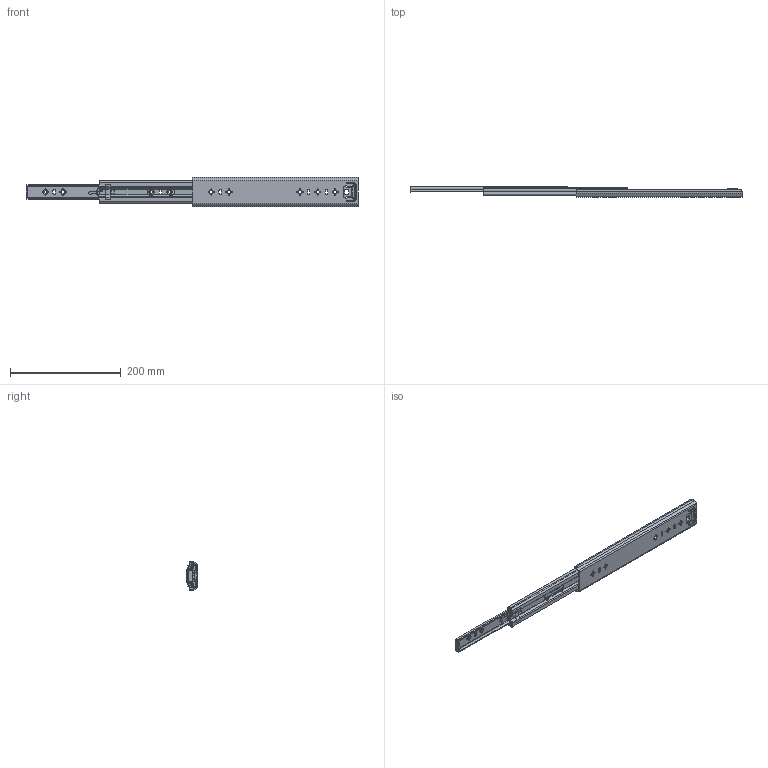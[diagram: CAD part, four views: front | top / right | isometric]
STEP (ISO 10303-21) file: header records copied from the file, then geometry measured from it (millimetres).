
FILE_DESCRIPTION((''),'2;1');
FILE_NAME('1053-02-12_ASM','2018-03-22T',('jishu015'),(''),'PRO/ENGINEER BY PARAMETRIC TECHNOLOGY CORPORATION, 2010280','PRO/ENGINEER BY PARAMETRIC TECHNOLOGY CORPORATION, 2010280','');
FILE_SCHEMA(('CONFIG_CONTROL_DESIGN'));
Length unit declared in the file: millimetre
Products named in the file (15): 1053-02-18WAIKE_; 1053WEIJIAO_; 1053-02-18WAIKE___ASM; 1053ZHUTIAO-175; 53-5-6GANZHU; 1053ZHUTIAO-175MM___ASM; 1053-02-18ZHONGGUI___; 53ZHIDIJIAO_________________; 1053-02-18ZHONGGUI____ASM; 1053XIAOZHUJIA-14GE_____; 1053XIAOZHUJIA-12GE_____ASM; 1053-02-18NEIGUI____; 53BACHA________________; 1053-02-18NEIGUI___ASM; 1053-02-12_ASM
Assembly tree (37 placements, depth 3):
  1053-02-12_ASM
    1053-02-18WAIKE___ASM
      1053-02-18WAIKE_
      1053WEIJIAO_
    1053ZHUTIAO-175MM___ASM  x2
      1053ZHUTIAO-175
      53-5-6GANZHU
    1053-02-18ZHONGGUI____ASM
      1053-02-18ZHONGGUI___
      53ZHIDIJIAO_________________
    1053XIAOZHUJIA-12GE_____ASM
      1053XIAOZHUJIA-14GE_____
      53-5-6GANZHU  x20
    1053-02-18NEIGUI___ASM
      1053-02-18NEIGUI____
      53BACHA________________
Bounding box: 600 x 18.7 x 53 mm (x, y, z)
Volume: 110949.1 mm3; surface area: 127054.1 mm2
Topology: 35 solids, 35 shells, 1129 faces, 3241 edges, 2058 vertices
Faces by surface type: plane 505, cylinder 462, sphere 60, cone 48, bspline 42, torus 12
Entity records: 37616 total; most frequent: CARTESIAN_POINT 9244, ORIENTED_EDGE 6002, DIRECTION 5827, EDGE_CURVE 3001, AXIS2_PLACEMENT_3D 2014, VERTEX_POINT 1956, VECTOR 1799, LINE 1799
